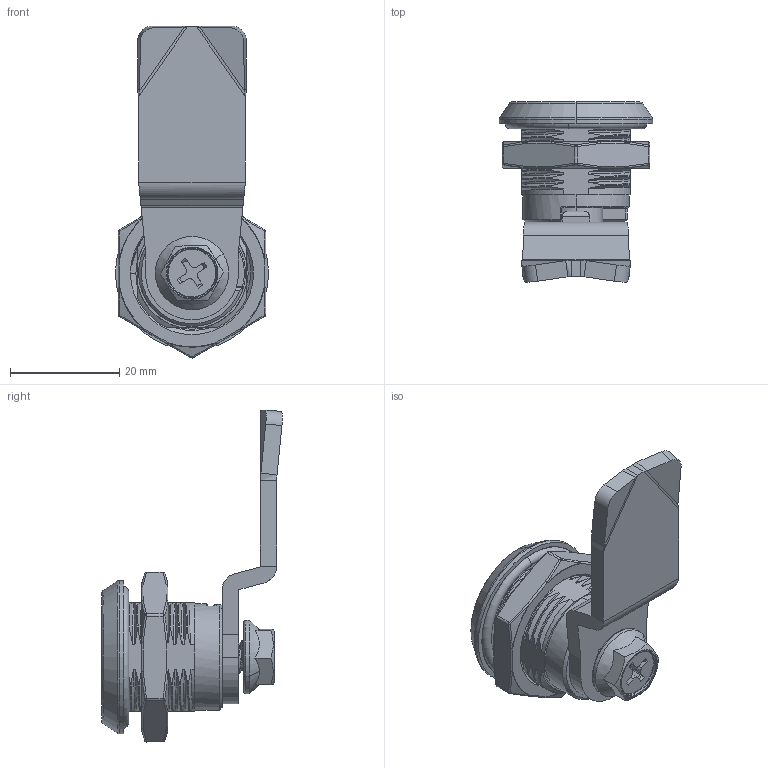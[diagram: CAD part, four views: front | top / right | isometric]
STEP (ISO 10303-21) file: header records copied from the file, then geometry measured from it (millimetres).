
FILE_DESCRIPTION (( 'STEP AP214' ), '1' );
FILE_NAME ('CUYUE.D1-1401-048.STEP', '2026-06-16T06:03:43', ( '' ), ( '' ), 'SwSTEP 2.0', 'SolidWorks 2020', '' );
FILE_SCHEMA (( 'AUTOMOTIVE_DESIGN' ));
Length unit declared in the file: millimetre
Products named in the file (9): 2X16密封圈; M6X8蹟隊; D1-1401-048坶郋; J-M22蹟譫; D1-1401-013坶褲; 10.2X0.3等疏え; CAM4507; 2X26密封圈; CUYUE.D1-1401-048
Assembly tree (9 placements, depth 2):
  CUYUE.D1-1401-048
    D1-1401-013坶褲
    2X16密封圈  x2
    2X26密封圈
    10.2X0.3等疏え
    CAM4507
    M6X8蹟隊
    D1-1401-048坶郋
    J-M22蹟譫
Bounding box: 28 x 33.01 x 60.66 mm (x, y, z)
Volume: 11799.1 mm3; surface area: 11266.7 mm2
Topology: 9 solids, 9 shells, 542 faces, 1376 edges, 855 vertices
Faces by surface type: bspline 189, cylinder 163, plane 109, cone 48, torus 33
Entity records: 53474 total; most frequent: CARTESIAN_POINT 42067, ORIENTED_EDGE 2732, DIRECTION 1749, EDGE_CURVE 1366, VERTEX_POINT 851, AXIS2_PLACEMENT_3D 668, EDGE_LOOP 557, ADVANCED_FACE 538
